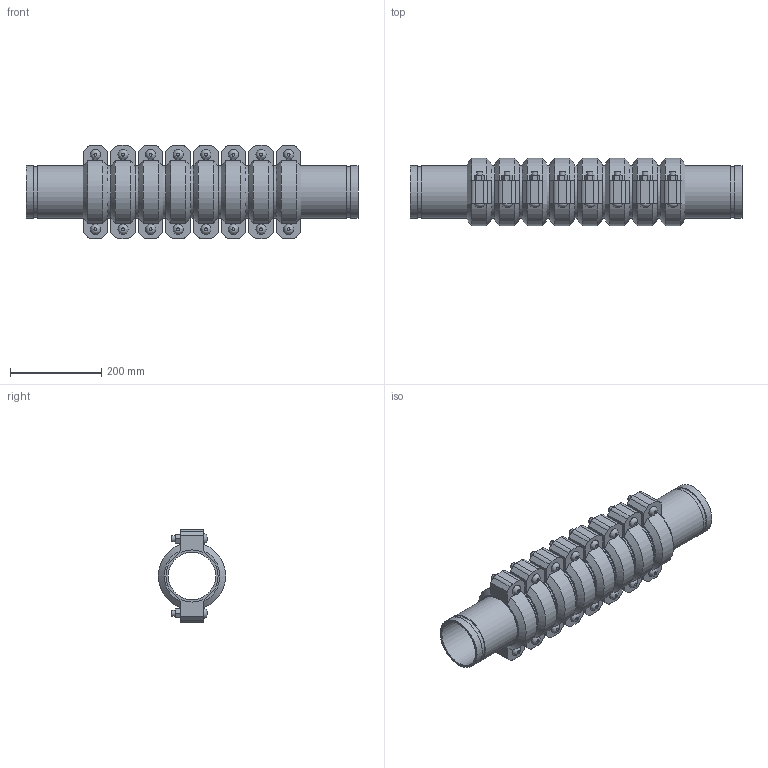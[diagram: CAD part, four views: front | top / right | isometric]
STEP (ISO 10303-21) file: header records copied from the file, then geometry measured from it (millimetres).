
FILE_DESCRIPTION(/* description */ ('VIC SS EXPANSION JOINT 8 COUPLINGS COMPRESSED STYLE 155P (OGS) (POTABLE WATER) ','CAx-IF Rec.Pracs.---Representation and Presentation of Product Manufacturing Information (PMI)---4.0---2014-10-13'),/* implementation_level */ '2;1');
FILE_NAME(/* name */ 'C:\Users\kkamble\AppData\Roaming\Autodesk\ApplicationPlugins\Victaulic.Temp\A39\Victaulic_SS_Expansion Joint_Compressed_8 Couplings_Style 155P (OGS)-Potable Water_8 Coup_Comp_4 (100).stp',/* time_stamp */ '2021-07-16T17:17:20+06:00',/* author */ ('kkamble'),/* organization */ ('Victaulic'),/* preprocessor_version */ 'ST-DEVELOPER v17.2',/* originating_system */ 'Autodesk Inventor 2019',/* authorisation */ '');
FILE_SCHEMA (('AP242_MANAGED_MODEL_BASED_3D_ENGINEERING_MIM_LF { 1 0 10303 442 1 1 4 }'));
Length unit declared in the file: inch
Products named in the file (4): 155P-04.0; Nipple-04.0; Nipple-04.0_1; 075-04.0
Assembly tree (17 placements, depth 2):
  155P-04.0
    Nipple-04.0  x2
    Nipple-04.0_1  x7
    075-04.0  x8
Bounding box: 727.2 x 147.32 x 203.96 mm (x, y, z)
Volume: 4996001.6 mm3; surface area: 1161583.8 mm2
Topology: 17 solids, 33 shells, 532 faces, 1286 edges, 904 vertices
Faces by surface type: plane 326, cylinder 158, cone 32, bspline 16
Full cylindrical faces by diameter (mm): 12.7 x32, 14.605 x16, 103.988 x9, 110.084 x18, 114.3 x35
Entity records: 2737 total; most frequent: CARTESIAN_POINT 487, DIRECTION 459, ORIENTED_EDGE 374, EDGE_CURVE 187, AXIS2_PLACEMENT_3D 184, VERTEX_POINT 134, EDGE_LOOP 101, LINE 91
